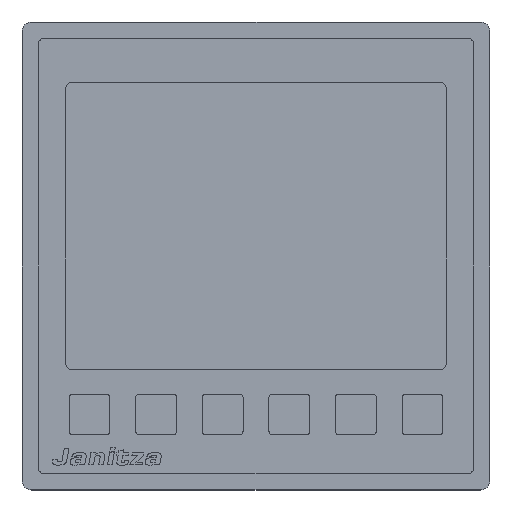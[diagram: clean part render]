
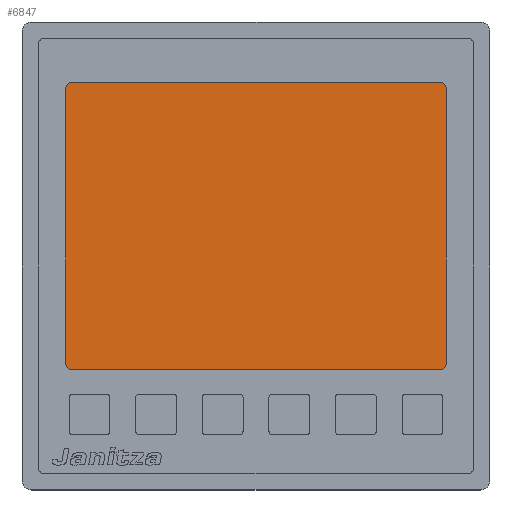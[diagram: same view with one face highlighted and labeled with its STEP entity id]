
A CAD part, top view. The second image highlights one B-rep face of the part: STEP entity #6847.
In plain terms, the highlighted planar face has unit normal (0, 0, 1).
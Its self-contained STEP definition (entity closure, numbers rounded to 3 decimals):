
#6206=CARTESIAN_POINT('',(-57.914,52.914,4.0));
#6207=VERTEX_POINT('',#6206);
#6216=CARTESIAN_POINT('',(-56.5,53.5,4.0));
#6217=VERTEX_POINT('',#6216);
#6218=CARTESIAN_POINT('',(-56.5,51.5,4.0));
#6219=DIRECTION('',(0.0,0.0,-1.));
#6220=DIRECTION('',(-0.707,0.707,0.0));
#6221=AXIS2_PLACEMENT_3D('',#6218,#6219,#6220);
#6222=CIRCLE('',#6221,2.);
#6223=EDGE_CURVE('',#6207,#6217,#6222,.T.);
#6248=CARTESIAN_POINT('',(-57.914,-34.414,4.0));
#6249=VERTEX_POINT('',#6248);
#6258=CARTESIAN_POINT('',(-58.5,-33.,4.0));
#6259=VERTEX_POINT('',#6258);
#6260=CARTESIAN_POINT('',(-56.5,-33.,4.0));
#6261=DIRECTION('',(0.0,0.0,-1.0));
#6262=DIRECTION('',(-0.707,-0.707,0.0));
#6263=AXIS2_PLACEMENT_3D('',#6260,#6261,#6262);
#6264=CIRCLE('',#6263,2.);
#6265=EDGE_CURVE('',#6249,#6259,#6264,.T.);
#6290=CARTESIAN_POINT('',(57.914,-34.414,4.0));
#6291=VERTEX_POINT('',#6290);
#6300=CARTESIAN_POINT('',(56.5,-35.,4.0));
#6301=VERTEX_POINT('',#6300);
#6302=CARTESIAN_POINT('',(56.5,-33.,4.0));
#6303=DIRECTION('',(0.0,0.0,-1.0));
#6304=DIRECTION('',(0.707,-0.707,0.0));
#6305=AXIS2_PLACEMENT_3D('',#6302,#6303,#6304);
#6306=CIRCLE('',#6305,2.);
#6307=EDGE_CURVE('',#6291,#6301,#6306,.T.);
#6332=CARTESIAN_POINT('',(57.914,52.914,4.0));
#6333=VERTEX_POINT('',#6332);
#6342=CARTESIAN_POINT('',(58.5,51.5,4.0));
#6343=VERTEX_POINT('',#6342);
#6344=CARTESIAN_POINT('',(56.5,51.5,4.0));
#6345=DIRECTION('',(0.0,0.0,-1.0));
#6346=DIRECTION('',(0.707,0.707,0.0));
#6347=AXIS2_PLACEMENT_3D('',#6344,#6345,#6346);
#6348=CIRCLE('',#6347,2.);
#6349=EDGE_CURVE('',#6333,#6343,#6348,.T.);
#6749=CARTESIAN_POINT('',(56.5,53.5,4.0));
#6750=VERTEX_POINT('',#6749);
#6757=CARTESIAN_POINT('',(56.5,51.5,4.0));
#6758=DIRECTION('',(0.0,0.0,-1.0));
#6759=DIRECTION('',(0.707,0.707,0.0));
#6760=AXIS2_PLACEMENT_3D('',#6757,#6758,#6759);
#6761=CIRCLE('',#6760,2.);
#6762=EDGE_CURVE('',#6750,#6333,#6761,.T.);
#6773=CARTESIAN_POINT('',(58.5,-33.,4.0));
#6774=VERTEX_POINT('',#6773);
#6775=CARTESIAN_POINT('',(58.5,-33.,4.0));
#6776=DIRECTION('',(0.0,1.0,0.0));
#6777=VECTOR('',#6776,84.5);
#6778=LINE('',#6775,#6777);
#6779=EDGE_CURVE('',#6774,#6343,#6778,.T.);
#6791=CARTESIAN_POINT('',(0.,0.,4.0));
#6792=DIRECTION('',(0.0,0.0,1.0));
#6793=DIRECTION('',(1.0,0.0,0.0));
#6794=AXIS2_PLACEMENT_3D('',#6791,#6792,#6793);
#6795=PLANE('',#6794);
#6796=ORIENTED_EDGE('',*,*,#6762,.F.);
#6797=CARTESIAN_POINT('',(56.5,53.5,4.0));
#6798=DIRECTION('',(-1.0,0.0,0.0));
#6799=VECTOR('',#6798,113.0);
#6800=LINE('',#6797,#6799);
#6801=EDGE_CURVE('',#6750,#6217,#6800,.T.);
#6802=ORIENTED_EDGE('',*,*,#6801,.T.);
#6803=ORIENTED_EDGE('',*,*,#6223,.F.);
#6804=CARTESIAN_POINT('',(-58.5,51.5,4.0));
#6805=VERTEX_POINT('',#6804);
#6806=CARTESIAN_POINT('',(-56.5,51.5,4.0));
#6807=DIRECTION('',(0.0,0.0,-1.));
#6808=DIRECTION('',(-0.707,0.707,0.0));
#6809=AXIS2_PLACEMENT_3D('',#6806,#6807,#6808);
#6810=CIRCLE('',#6809,2.);
#6811=EDGE_CURVE('',#6805,#6207,#6810,.T.);
#6812=ORIENTED_EDGE('',*,*,#6811,.F.);
#6813=CARTESIAN_POINT('',(-58.5,51.5,4.0));
#6814=DIRECTION('',(0.0,-1.0,0.0));
#6815=VECTOR('',#6814,84.5);
#6816=LINE('',#6813,#6815);
#6817=EDGE_CURVE('',#6805,#6259,#6816,.T.);
#6818=ORIENTED_EDGE('',*,*,#6817,.T.);
#6819=ORIENTED_EDGE('',*,*,#6265,.F.);
#6820=CARTESIAN_POINT('',(-56.5,-35.0,4.0));
#6821=VERTEX_POINT('',#6820);
#6822=CARTESIAN_POINT('',(-56.5,-33.,4.0));
#6823=DIRECTION('',(0.0,0.0,-1.0));
#6824=DIRECTION('',(-0.707,-0.707,0.0));
#6825=AXIS2_PLACEMENT_3D('',#6822,#6823,#6824);
#6826=CIRCLE('',#6825,2.);
#6827=EDGE_CURVE('',#6821,#6249,#6826,.T.);
#6828=ORIENTED_EDGE('',*,*,#6827,.F.);
#6829=CARTESIAN_POINT('',(-56.5,-35.0,4.0));
#6830=DIRECTION('',(1.0,0.0,0.0));
#6831=VECTOR('',#6830,113.);
#6832=LINE('',#6829,#6831);
#6833=EDGE_CURVE('',#6821,#6301,#6832,.T.);
#6834=ORIENTED_EDGE('',*,*,#6833,.T.);
#6835=ORIENTED_EDGE('',*,*,#6307,.F.);
#6836=CARTESIAN_POINT('',(56.5,-33.,4.0));
#6837=DIRECTION('',(0.0,0.0,-1.0));
#6838=DIRECTION('',(0.707,-0.707,0.0));
#6839=AXIS2_PLACEMENT_3D('',#6836,#6837,#6838);
#6840=CIRCLE('',#6839,2.);
#6841=EDGE_CURVE('',#6774,#6291,#6840,.T.);
#6842=ORIENTED_EDGE('',*,*,#6841,.F.);
#6843=ORIENTED_EDGE('',*,*,#6779,.T.);
#6844=ORIENTED_EDGE('',*,*,#6349,.F.);
#6845=EDGE_LOOP('',(#6796,#6802,#6803,#6812,#6818,#6819,#6828,#6834,#6835,#6842,#6843,#6844));
#6846=FACE_OUTER_BOUND('',#6845,.T.);
#6847=ADVANCED_FACE('',(#6846),#6795,.T.);
